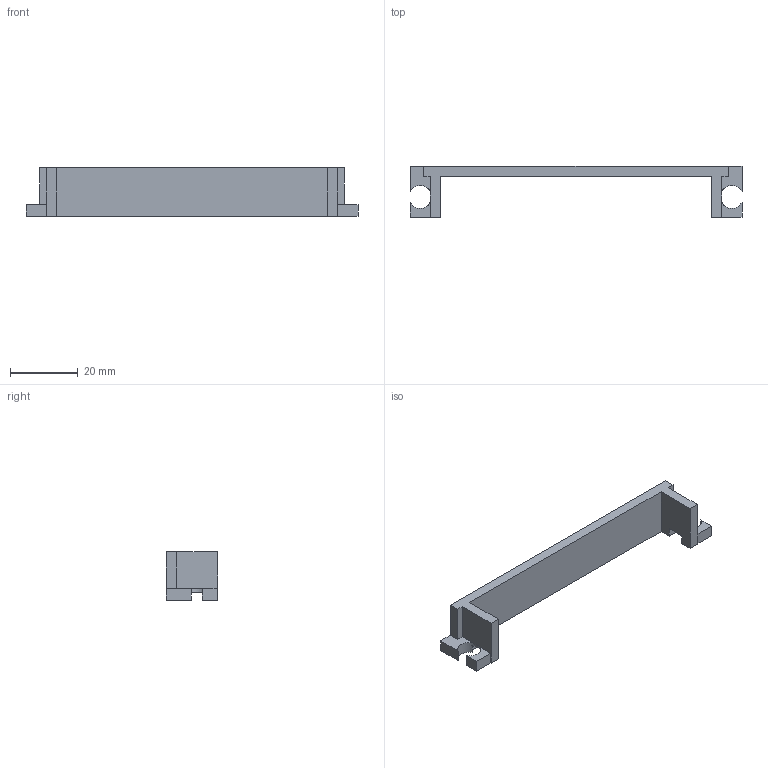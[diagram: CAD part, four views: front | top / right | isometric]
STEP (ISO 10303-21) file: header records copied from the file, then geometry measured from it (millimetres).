
FILE_DESCRIPTION(('Open CASCADE Model'),'2;1');
FILE_NAME('Open CASCADE Shape Model','1970-01-01T00:00:00',('Author'),( 'Open CASCADE'),'Open CASCADE STEP processor 7.8','Open CASCADE 7.8' ,'Unknown');
FILE_SCHEMA(('AUTOMOTIVE_DESIGN { 1 0 10303 214 1 1 1 1 }'));
Length unit declared in the file: millimetre
Products named in the file (2): Open CASCADE STEP translator 7.8 43; GR grip receiver bridge
Assembly tree (1 placements, depth 2):
  Open CASCADE STEP translator 7.8 43
    GR grip receiver bridge
Bounding box: 98 x 15.1 x 14.38 mm (x, y, z)
Volume: 5191.6 mm3; surface area: 4405.6 mm2
Topology: 1 solids, 1 shells, 42 faces, 116 edges, 76 vertices
Faces by surface type: plane 40, cylinder 2
Entity records: 2831 total; most frequent: CARTESIAN_POINT 502, DIRECTION 414, LINE 290, VECTOR 290, ORIENTED_EDGE 232, PCURVE 232, DEFINITIONAL_REPRESENTATION 232, EDGE_CURVE 116
